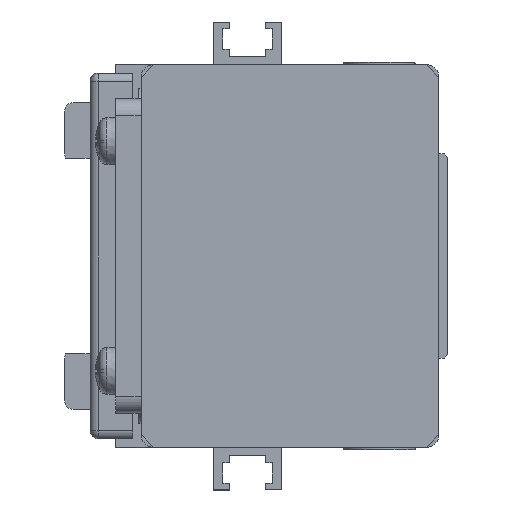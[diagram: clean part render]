
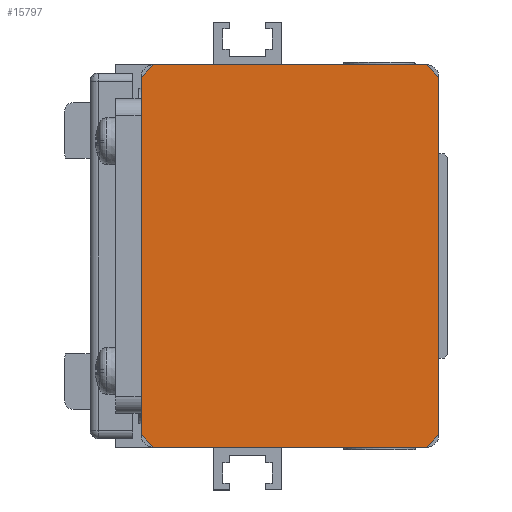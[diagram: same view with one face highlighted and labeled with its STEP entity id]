
A CAD part, left-side view. The second image highlights one B-rep face of the part: STEP entity #15797.
In plain terms, the highlighted planar face has unit normal (-1, 0, 0) as drawn and (0, 0, -1) by its records, which use the part's own axes.
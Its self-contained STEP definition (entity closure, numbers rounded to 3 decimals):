
#664=LINE('',#22891,#2030);
#666=LINE('',#22896,#2032);
#667=LINE('',#22898,#2033);
#668=LINE('',#22900,#2034);
#669=LINE('',#22901,#2035);
#670=LINE('',#22903,#2036);
#671=LINE('',#22905,#2037);
#672=LINE('',#22906,#2038);
#2030=VECTOR('',#18460,2.121);
#2032=VECTOR('',#18464,2.121);
#2033=VECTOR('',#18465,32.);
#2034=VECTOR('',#18466,2.121);
#2035=VECTOR('',#18467,42.);
#2036=VECTOR('',#18468,32.);
#2037=VECTOR('',#18469,2.121);
#2038=VECTOR('',#18470,42.);
#3682=PLANE('',#16856);
#4381=FACE_OUTER_BOUND('',#5359,.T.);
#5359=EDGE_LOOP('',(#11031,#11032,#11033,#11034,#11035,#11036,#11037,#11038));
#6947=VERTEX_POINT('',#22888);
#6948=VERTEX_POINT('',#22890);
#6949=VERTEX_POINT('',#22894);
#6950=VERTEX_POINT('',#22895);
#6951=VERTEX_POINT('',#22897);
#6952=VERTEX_POINT('',#22899);
#6953=VERTEX_POINT('',#22902);
#6954=VERTEX_POINT('',#22904);
#8576=EDGE_CURVE('',#6947,#6948,#664,.T.);
#8578=EDGE_CURVE('',#6949,#6950,#666,.T.);
#8579=EDGE_CURVE('',#6949,#6951,#667,.T.);
#8580=EDGE_CURVE('',#6952,#6951,#668,.T.);
#8581=EDGE_CURVE('',#6952,#6948,#669,.T.);
#8582=EDGE_CURVE('',#6947,#6953,#670,.T.);
#8583=EDGE_CURVE('',#6954,#6953,#671,.T.);
#8584=EDGE_CURVE('',#6954,#6950,#672,.T.);
#11031=ORIENTED_EDGE('',*,*,#8578,.F.);
#11032=ORIENTED_EDGE('',*,*,#8579,.T.);
#11033=ORIENTED_EDGE('',*,*,#8580,.F.);
#11034=ORIENTED_EDGE('',*,*,#8581,.T.);
#11035=ORIENTED_EDGE('',*,*,#8576,.F.);
#11036=ORIENTED_EDGE('',*,*,#8582,.T.);
#11037=ORIENTED_EDGE('',*,*,#8583,.F.);
#11038=ORIENTED_EDGE('',*,*,#8584,.T.);
#15797=ADVANCED_FACE('',(#4381),#3682,.F.);
#16856=AXIS2_PLACEMENT_3D('',#22893,#18462,#18463);
#18460=DIRECTION('',(-0.707,0.707,0.));
#18462=DIRECTION('center_axis',(0.,0.,1.));
#18463=DIRECTION('ref_axis',(1.,0.,0.));
#18464=DIRECTION('',(0.707,-0.707,0.));
#18465=DIRECTION('',(0.,1.,0.));
#18466=DIRECTION('',(-0.707,-0.707,0.));
#18467=DIRECTION('',(1.,0.,0.));
#18468=DIRECTION('',(0.,-1.,0.));
#18469=DIRECTION('',(0.707,0.707,0.));
#18470=DIRECTION('',(-1.,0.,0.));
#22888=CARTESIAN_POINT('',(50.,34.5,-427.));
#22890=CARTESIAN_POINT('',(48.5,36.,-427.));
#22891=CARTESIAN_POINT('',(50.,34.5,-427.));
#22893=CARTESIAN_POINT('Origin',(27.5,18.5,-427.));
#22894=CARTESIAN_POINT('',(5.,2.5,-427.));
#22895=CARTESIAN_POINT('',(6.5,1.,-427.));
#22896=CARTESIAN_POINT('',(5.,2.5,-427.));
#22897=CARTESIAN_POINT('',(5.,34.5,-427.));
#22898=CARTESIAN_POINT('',(5.,2.5,-427.));
#22899=CARTESIAN_POINT('',(6.5,36.,-427.));
#22900=CARTESIAN_POINT('',(6.5,36.,-427.));
#22901=CARTESIAN_POINT('',(6.5,36.,-427.));
#22902=CARTESIAN_POINT('',(50.,2.5,-427.));
#22903=CARTESIAN_POINT('',(50.,34.5,-427.));
#22904=CARTESIAN_POINT('',(48.5,1.,-427.));
#22905=CARTESIAN_POINT('',(48.5,1.,-427.));
#22906=CARTESIAN_POINT('',(48.5,1.,-427.));
